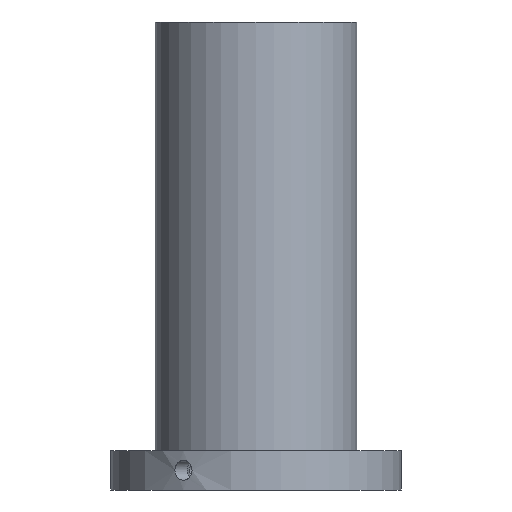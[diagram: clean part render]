
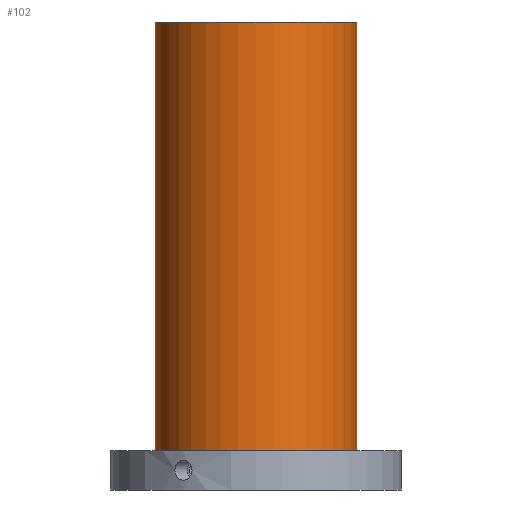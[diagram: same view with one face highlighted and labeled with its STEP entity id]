
A CAD part, front view. The second image highlights one B-rep face of the part: STEP entity #102.
In plain terms, the highlighted cylindrical face has radius 41 mm (diameter 82 mm), a full revolution.
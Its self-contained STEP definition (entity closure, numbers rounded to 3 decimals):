
#102=ADVANCED_FACE('',(#136,#137),#119,.T.);
#119=CYLINDRICAL_SURFACE('',#371,41.);
#136=FACE_BOUND('',#188,.T.);
#137=FACE_BOUND('',#189,.T.);
#188=EDGE_LOOP('',(#240));
#189=EDGE_LOOP('',(#241));
#240=ORIENTED_EDGE('',*,*,#318,.F.);
#241=ORIENTED_EDGE('',*,*,#319,.T.);
#292=VERTEX_POINT('',#557);
#293=VERTEX_POINT('',#559);
#318=EDGE_CURVE('',#292,#292,#343,.T.);
#319=EDGE_CURVE('',#293,#293,#344,.T.);
#343=CIRCLE('',#369,41.);
#344=CIRCLE('',#370,41.);
#369=AXIS2_PLACEMENT_3D('',#556,#415,#416);
#370=AXIS2_PLACEMENT_3D('',#558,#417,#418);
#371=AXIS2_PLACEMENT_3D('',#560,#419,#420);
#415=DIRECTION('',(0.,0.,-1.));
#416=DIRECTION('',(1.,0.,0.));
#417=DIRECTION('',(0.,0.,-1.));
#418=DIRECTION('',(1.,0.,0.));
#419=DIRECTION('',(0.,0.,-1.));
#420=DIRECTION('',(-1.,0.,0.));
#556=CARTESIAN_POINT('',(0.,0.,16.));
#557=CARTESIAN_POINT('',(41.,0.,16.));
#558=CARTESIAN_POINT('',(0.,0.,190.));
#559=CARTESIAN_POINT('',(41.,0.,190.));
#560=CARTESIAN_POINT('',(0.,0.,190.));
